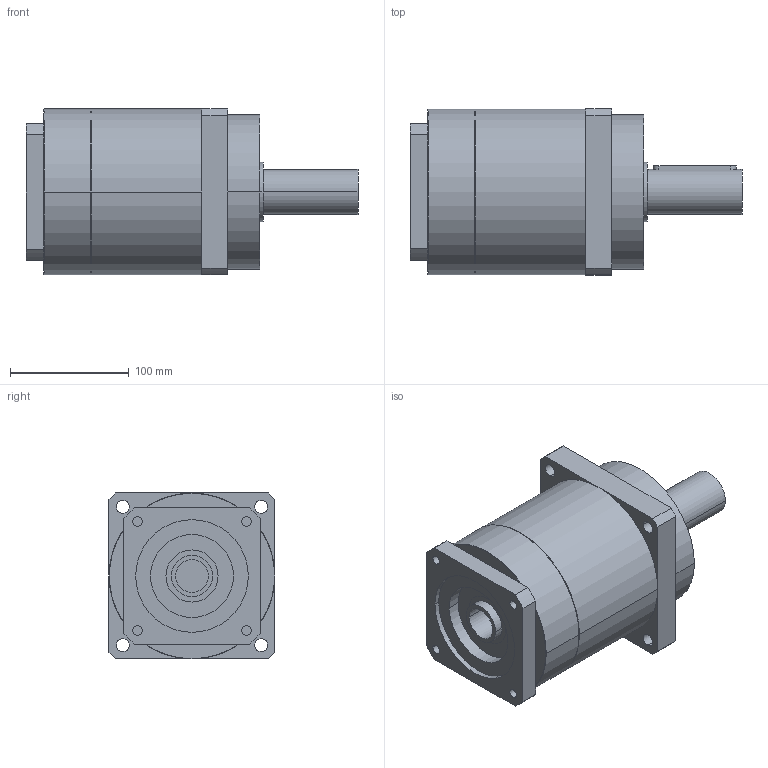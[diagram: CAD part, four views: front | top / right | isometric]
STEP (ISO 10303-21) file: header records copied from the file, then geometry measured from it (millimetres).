
FILE_DESCRIPTION(('CoCreate Modeling STEP Export'),'2;1');
FILE_NAME('GPR150_ig-3-4-5-7_38_B5_28_P10.stp','2014-08-19T16:42:45',(''),(''),'CoCreate Modeling STEP processor for AP214 (Solid Model)','CoCreate Modeling 16.00C 25-Feb-2009 (C) Parametric Technology GmbH','');
FILE_SCHEMA(('AUTOMOTIVE_DESIGN { 1 0 10303 214 1 1 1 1 }'));
Length unit declared in the file: millimetre
Products named in the file (2): GPR150_ig-3-4-5-7_38_B5_28_P10
Assembly tree (1 placements, depth 2):
  GPR150_ig-3-4-5-7_38_B5_28_P10
    GPR150_ig-3-4-5-7_38_B5_28_P10
Bounding box: 280 x 140 x 140 mm (x, y, z)
Volume: 3005212.4 mm3; surface area: 154233.8 mm2
Topology: 1 solids, 1 shells, 92 faces, 231 edges, 153 vertices
Faces by surface type: cylinder 48, plane 38, cone 6
Entity records: 2408 total; most frequent: ORIENTED_EDGE 458, CARTESIAN_POINT 439, DIRECTION 336, EDGE_CURVE 229, VERTEX_POINT 153, AXIS2_PLACEMENT_3D 122, EDGE_LOOP 114, VECTOR 92
